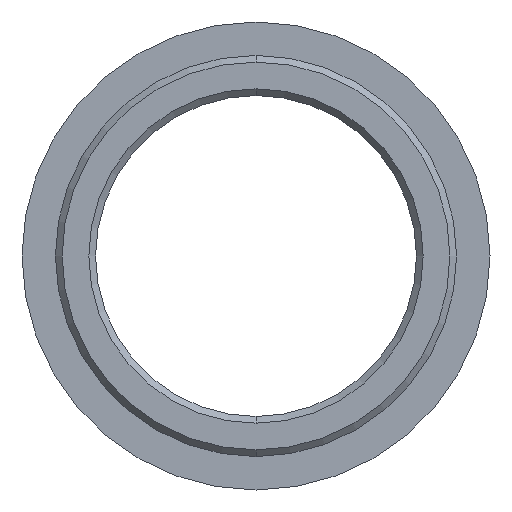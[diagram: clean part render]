
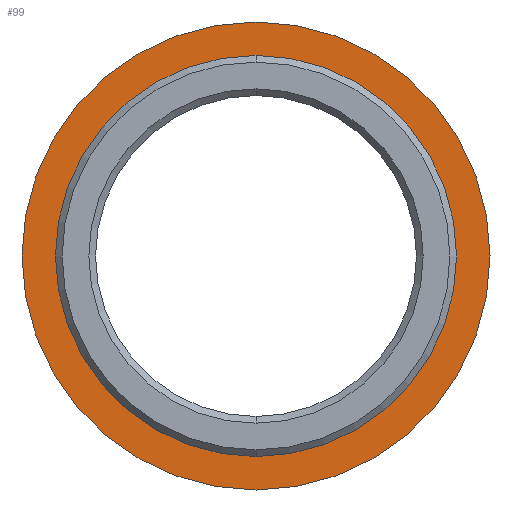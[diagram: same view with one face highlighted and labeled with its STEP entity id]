
A CAD part, left-side view. The second image highlights one B-rep face of the part: STEP entity #99.
In plain terms, the highlighted free-form (B-spline) face has degree [1, 1] with [2, 2] control points.
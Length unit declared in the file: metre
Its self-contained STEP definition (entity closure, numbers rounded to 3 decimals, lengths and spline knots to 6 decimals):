
#99 = ADVANCED_FACE( '', ( #154, #155 ), #156, .F. );
#154 = FACE_BOUND( '', #244, .T. );
#155 = FACE_OUTER_BOUND( '', #245, .T. );
#156 = B_SPLINE_SURFACE_WITH_KNOTS( '', 1, 1, ( ( #246, #247 ), ( #248, #249 ) ), .UNSPECIFIED., .F., .F., .F., ( 2, 2 ), ( 2, 2 ), ( 0., 1. ), ( 0., 1. ), .UNSPECIFIED. );
#244 = EDGE_LOOP( '', ( #415, #416 ) );
#245 = EDGE_LOOP( '', ( #417, #418 ) );
#246 = CARTESIAN_POINT( '', ( 0.009, -0.01771, 0.01771 ) );
#247 = CARTESIAN_POINT( '', ( 0.009, 0.01771, 0.01771 ) );
#248 = CARTESIAN_POINT( '', ( 0.009, -0.01771, -0.01771 ) );
#249 = CARTESIAN_POINT( '', ( 0.009, 0.01771, -0.01771 ) );
#415 = ORIENTED_EDGE( '', *, *, #486, .T. );
#416 = ORIENTED_EDGE( '', *, *, #490, .T. );
#417 = ORIENTED_EDGE( '', *, *, #491, .F. );
#418 = ORIENTED_EDGE( '', *, *, #492, .F. );
#486 = EDGE_CURVE( '', #566, #567, #568, .F. );
#490 = EDGE_CURVE( '', #567, #566, #572, .F. );
#491 = EDGE_CURVE( '', #573, #574, #575, .F. );
#492 = EDGE_CURVE( '', #574, #573, #576, .F. );
#566 = VERTEX_POINT( '', #666 );
#567 = VERTEX_POINT( '', #667 );
#568 = CIRCLE( '', #668, 0.0145 );
#572 = CIRCLE( '', #674, 0.0145 );
#573 = VERTEX_POINT( '', #675 );
#574 = VERTEX_POINT( '', #676 );
#575 = CIRCLE( '', #677, 0.0175 );
#576 = CIRCLE( '', #678, 0.0175 );
#666 = CARTESIAN_POINT( '', ( 0.009, 0., 0.0145 ) );
#667 = CARTESIAN_POINT( '', ( 0.009, 0., -0.0145 ) );
#668 = AXIS2_PLACEMENT_3D( '', #780, #781, #782 );
#674 = AXIS2_PLACEMENT_3D( '', #788, #789, #790 );
#675 = CARTESIAN_POINT( '', ( 0.009, 0., 0.0175 ) );
#676 = CARTESIAN_POINT( '', ( 0.009, 0., -0.0175 ) );
#677 = AXIS2_PLACEMENT_3D( '', #791, #792, #793 );
#678 = AXIS2_PLACEMENT_3D( '', #794, #795, #796 );
#780 = CARTESIAN_POINT( '', ( 0.009, 0., 0. ) );
#781 = DIRECTION( '', ( -1., 0., 0. ) );
#782 = DIRECTION( '', ( 0., 0., 1. ) );
#788 = CARTESIAN_POINT( '', ( 0.009, 0., 0. ) );
#789 = DIRECTION( '', ( -1., 0., 0. ) );
#790 = DIRECTION( '', ( 0., 0., 1. ) );
#791 = CARTESIAN_POINT( '', ( 0.009, 0., 0. ) );
#792 = DIRECTION( '', ( -1., 0., 0. ) );
#793 = DIRECTION( '', ( 0., 0., 1. ) );
#794 = CARTESIAN_POINT( '', ( 0.009, 0., 0. ) );
#795 = DIRECTION( '', ( -1., 0., 0. ) );
#796 = DIRECTION( '', ( 0., 0., 1. ) );
